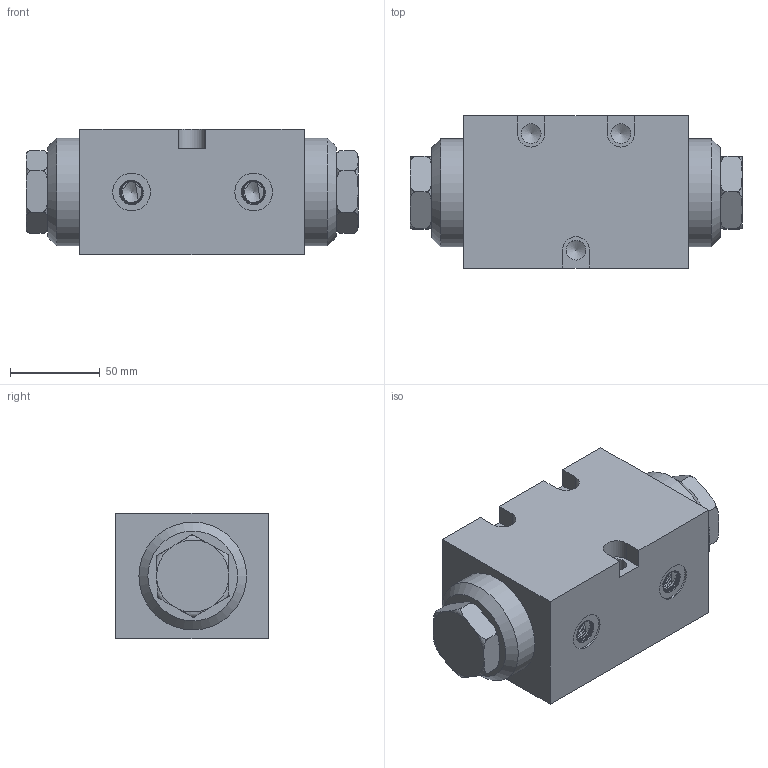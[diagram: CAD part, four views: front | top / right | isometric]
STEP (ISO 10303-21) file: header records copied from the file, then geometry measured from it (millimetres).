
FILE_DESCRIPTION(/* description */ (''),/* implementation_level */ '2;1');
FILE_NAME(/* name */ '16-2.prt.stp',/* time_stamp */ '2023-05-03T14:35:20+08:00',/* author */ (''),/* organization */ (''),/* preprocessor_version */ 'ST-DEVELOPER v16.7',/* originating_system */ 'SIEMENS PLM Software NX 12.0',/* authorisation */ '');
FILE_SCHEMA (('AUTOMOTIVE_DESIGN { 1 0 10303 214 3 1 1 1 }'));
Length unit declared in the file: millimetre
Products named in the file (1): 16-2
Bounding box: 185 x 85 x 70 mm (x, y, z)
Volume: 841497.9 mm3; surface area: 75628.2 mm2
Topology: 3 solids, 3 shells, 97 faces, 258 edges, 172 vertices
Faces by surface type: plane 39, torus 24, cylinder 17, bspline 9, cone 8
Full cylindrical faces by diameter (mm): 11 x3, 21 x2, 23 x1, 60 x2
Entity records: 15748 total; most frequent: CARTESIAN_POINT 13574, ORIENTED_EDGE 456, DIRECTION 378, EDGE_CURVE 228, VERTEX_POINT 164, AXIS2_PLACEMENT_3D 146, EDGE_LOOP 118, ADVANCED_FACE 97
